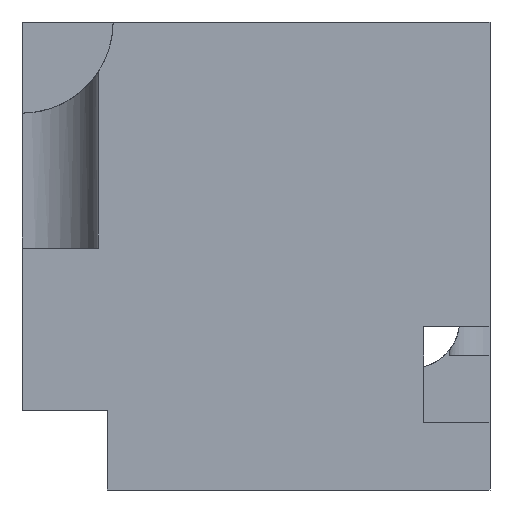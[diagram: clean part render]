
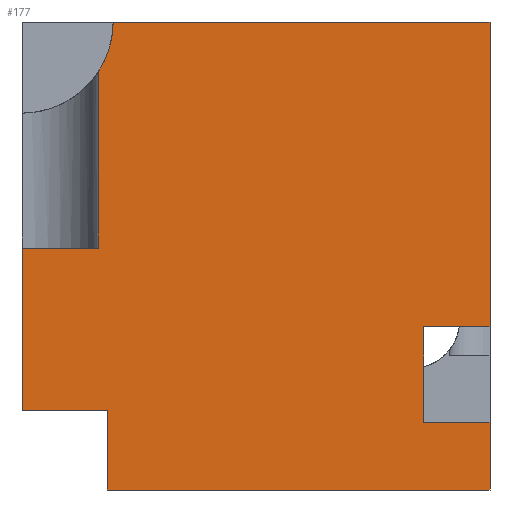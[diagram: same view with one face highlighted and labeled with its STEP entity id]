
A CAD part, front view. The second image highlights one B-rep face of the part: STEP entity #177.
In plain terms, the highlighted planar face has unit normal (0, -1, 0).
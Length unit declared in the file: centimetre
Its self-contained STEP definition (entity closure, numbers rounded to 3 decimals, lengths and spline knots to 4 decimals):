
#19 = ORIENTED_EDGE ( 'NONE', *, *, #1251, .F. ) ;
#61 = VERTEX_POINT ( 'NONE', #214 ) ;
#68 = ORIENTED_EDGE ( 'NONE', *, *, #296, .F. ) ;
#126 = LINE ( 'NONE', #868, #1378 ) ;
#133 = LINE ( 'NONE', #971, #164 ) ;
#142 = DIRECTION ( 'NONE',  ( -1., 0., 0. ) ) ;
#148 = EDGE_CURVE ( 'NONE', #61, #903, #617, .T. ) ;
#154 = AXIS2_PLACEMENT_3D ( 'NONE', #1181, #875, #777 ) ;
#164 = VECTOR ( 'NONE', #656, 100. ) ;
#169 = EDGE_CURVE ( 'NONE', #237, #174, #1270, .T. ) ;
#174 = VERTEX_POINT ( 'NONE', #954 ) ;
#176 = VERTEX_POINT ( 'NONE', #1383 ) ;
#177 = ADVANCED_FACE ( 'NONE', ( #848 ), #1275, .F. ) ;
#178 = EDGE_CURVE ( 'NONE', #345, #470, #1304, .T. ) ;
#199 = LINE ( 'NONE', #1062, #280 ) ;
#200 = ORIENTED_EDGE ( 'NONE', *, *, #178, .F. ) ;
#209 = LINE ( 'NONE', #1163, #724 ) ;
#212 = VECTOR ( 'NONE', #218, 100. ) ;
#214 = CARTESIAN_POINT ( 'NONE',  ( 194.812, 0., 1000. ) ) ;
#218 = DIRECTION ( 'NONE',  ( 0., 0., -1. ) ) ;
#230 = CARTESIAN_POINT ( 'NONE',  ( 858.3332, 0., 145.0705 ) ) ;
#234 = EDGE_CURVE ( 'NONE', #811, #831, #545, .T. ) ;
#237 = VERTEX_POINT ( 'NONE', #1083 ) ;
#239 = LINE ( 'NONE', #230, #562 ) ;
#242 = ORIENTED_EDGE ( 'NONE', *, *, #148, .F. ) ;
#252 = VECTOR ( 'NONE', #142, 100. ) ;
#263 = CARTESIAN_POINT ( 'NONE',  ( 858.3332, 0., 145.0705 ) ) ;
#275 = CARTESIAN_POINT ( 'NONE',  ( 162.6652, 0., 516.9427 ) ) ;
#280 = VECTOR ( 'NONE', #426, 100. ) ;
#283 = EDGE_CURVE ( 'NONE', #330, #345, #133, .T. ) ;
#287 = ORIENTED_EDGE ( 'NONE', *, *, #807, .F. ) ;
#296 = EDGE_CURVE ( 'NONE', #174, #726, #425, .T. ) ;
#311 = CARTESIAN_POINT ( 'NONE',  ( 182.0642, 0., 0. ) ) ;
#313 = EDGE_CURVE ( 'NONE', #237, #1183, #126, .T. ) ;
#330 = VERTEX_POINT ( 'NONE', #1187 ) ;
#345 = VERTEX_POINT ( 'NONE', #921 ) ;
#349 = DIRECTION ( 'NONE',  ( 0., 0., -1. ) ) ;
#351 = ORIENTED_EDGE ( 'NONE', *, *, #834, .F. ) ;
#383 = ORIENTED_EDGE ( 'NONE', *, *, #234, .F. ) ;
#387 = VECTOR ( 'NONE', #585, 100. ) ;
#395 = DIRECTION ( 'NONE',  ( 1., 0., 0. ) ) ;
#399 = VECTOR ( 'NONE', #395, 100. ) ;
#417 = ORIENTED_EDGE ( 'NONE', *, *, #313, .T. ) ;
#425 = LINE ( 'NONE', #434, #252 ) ;
#426 = DIRECTION ( 'NONE',  ( 0., 0., -1. ) ) ;
#434 = CARTESIAN_POINT ( 'NONE',  ( 0., 0., 169.287 ) ) ;
#453 = ORIENTED_EDGE ( 'NONE', *, *, #483, .F. ) ;
#470 = VERTEX_POINT ( 'NONE', #263 ) ;
#483 = EDGE_CURVE ( 'NONE', #1285, #61, #1246, .T. ) ;
#486 = CARTESIAN_POINT ( 'NONE',  ( 0., 0., 1000. ) ) ;
#526 = DIRECTION ( 'NONE',  ( 0., 0., 1. ) ) ;
#545 = LINE ( 'NONE', #1070, #628 ) ;
#547 = ORIENTED_EDGE ( 'NONE', *, *, #1288, .T. ) ;
#550 = CARTESIAN_POINT ( 'NONE',  ( 858.3332, 0., 145.0705 ) ) ;
#555 = CARTESIAN_POINT ( 'NONE',  ( 0., 0., 169.287 ) ) ;
#556 = DIRECTION ( 'NONE',  ( 1., 0., 0. ) ) ;
#562 = VECTOR ( 'NONE', #640, 100. ) ;
#585 = DIRECTION ( 'NONE',  ( 0., 0., -1. ) ) ;
#617 = LINE ( 'NONE', #1264, #399 ) ;
#628 = VECTOR ( 'NONE', #745, 100. ) ;
#640 = DIRECTION ( 'NONE',  ( 1., 0., 0. ) ) ;
#656 = DIRECTION ( 'NONE',  ( -1., 0., 0. ) ) ;
#685 = DIRECTION ( 'NONE',  ( 0., 0., -1. ) ) ;
#709 = AXIS2_PLACEMENT_3D ( 'NONE', #486, #914, #685 ) ;
#724 = VECTOR ( 'NONE', #741, 100. ) ;
#726 = VERTEX_POINT ( 'NONE', #555 ) ;
#741 = DIRECTION ( 'NONE',  ( 0., 0., -1. ) ) ;
#745 = DIRECTION ( 'NONE',  ( 1., 0., 0. ) ) ;
#751 = VECTOR ( 'NONE', #526, 100. ) ;
#774 = ORIENTED_EDGE ( 'NONE', *, *, #169, .F. ) ;
#777 = DIRECTION ( 'NONE',  ( 0., 0., 1. ) ) ;
#800 = VECTOR ( 'NONE', #349, 100. ) ;
#807 = EDGE_CURVE ( 'NONE', #176, #1183, #970, .T. ) ;
#811 = VERTEX_POINT ( 'NONE', #867 ) ;
#831 = VERTEX_POINT ( 'NONE', #1065 ) ;
#834 = EDGE_CURVE ( 'NONE', #470, #176, #239, .T. ) ;
#848 = FACE_OUTER_BOUND ( 'NONE', #1350, .T. ) ;
#867 = CARTESIAN_POINT ( 'NONE',  ( 0., 0., 516.9427 ) ) ;
#868 = CARTESIAN_POINT ( 'NONE',  ( 0., 0., 0. ) ) ;
#875 = DIRECTION ( 'NONE',  ( 0., 1., 0. ) ) ;
#903 = VERTEX_POINT ( 'NONE', #998 ) ;
#914 = DIRECTION ( 'NONE',  ( 0., -1., 0. ) ) ;
#919 = EDGE_CURVE ( 'NONE', #1285, #831, #1007, .T. ) ;
#921 = CARTESIAN_POINT ( 'NONE',  ( 858.3332, 0., 348.387 ) ) ;
#925 = ORIENTED_EDGE ( 'NONE', *, *, #283, .F. ) ;
#954 = CARTESIAN_POINT ( 'NONE',  ( 182.0642, 0., 169.287 ) ) ;
#970 = LINE ( 'NONE', #978, #212 ) ;
#971 = CARTESIAN_POINT ( 'NONE',  ( 858.3332, 0., 348.387 ) ) ;
#978 = CARTESIAN_POINT ( 'NONE',  ( 1000., 0., 1000. ) ) ;
#998 = CARTESIAN_POINT ( 'NONE',  ( 1000., 0., 1000. ) ) ;
#1007 = LINE ( 'NONE', #275, #387 ) ;
#1047 = CARTESIAN_POINT ( 'NONE',  ( 162.6652, 0., 892.8004 ) ) ;
#1054 = ORIENTED_EDGE ( 'NONE', *, *, #919, .T. ) ;
#1062 = CARTESIAN_POINT ( 'NONE',  ( 1000., 0., 1000. ) ) ;
#1065 = CARTESIAN_POINT ( 'NONE',  ( 162.6652, 0., 516.9427 ) ) ;
#1070 = CARTESIAN_POINT ( 'NONE',  ( 0., 0., 516.9427 ) ) ;
#1083 = CARTESIAN_POINT ( 'NONE',  ( 182.0642, 0., 0. ) ) ;
#1143 = CARTESIAN_POINT ( 'NONE',  ( 1000., 0., 0. ) ) ;
#1163 = CARTESIAN_POINT ( 'NONE',  ( 0., 0., 1000. ) ) ;
#1181 = CARTESIAN_POINT ( 'NONE',  ( 0., 0., 1000. ) ) ;
#1183 = VERTEX_POINT ( 'NONE', #1143 ) ;
#1187 = CARTESIAN_POINT ( 'NONE',  ( 1000., 0., 348.387 ) ) ;
#1246 = CIRCLE ( 'NONE', #709, 194.812 ) ;
#1251 = EDGE_CURVE ( 'NONE', #903, #330, #199, .T. ) ;
#1264 = CARTESIAN_POINT ( 'NONE',  ( 0., 0., 1000. ) ) ;
#1270 = LINE ( 'NONE', #311, #751 ) ;
#1275 = PLANE ( 'NONE',  #154 ) ;
#1285 = VERTEX_POINT ( 'NONE', #1047 ) ;
#1288 = EDGE_CURVE ( 'NONE', #811, #726, #209, .T. ) ;
#1304 = LINE ( 'NONE', #550, #800 ) ;
#1350 = EDGE_LOOP ( 'NONE', ( #453, #1054, #383, #547, #68, #774, #417, #287, #351, #200, #925, #19, #242 ) ) ;
#1378 = VECTOR ( 'NONE', #556, 100. ) ;
#1383 = CARTESIAN_POINT ( 'NONE',  ( 1000., 0., 145.0705 ) ) ;
